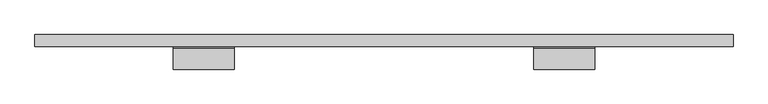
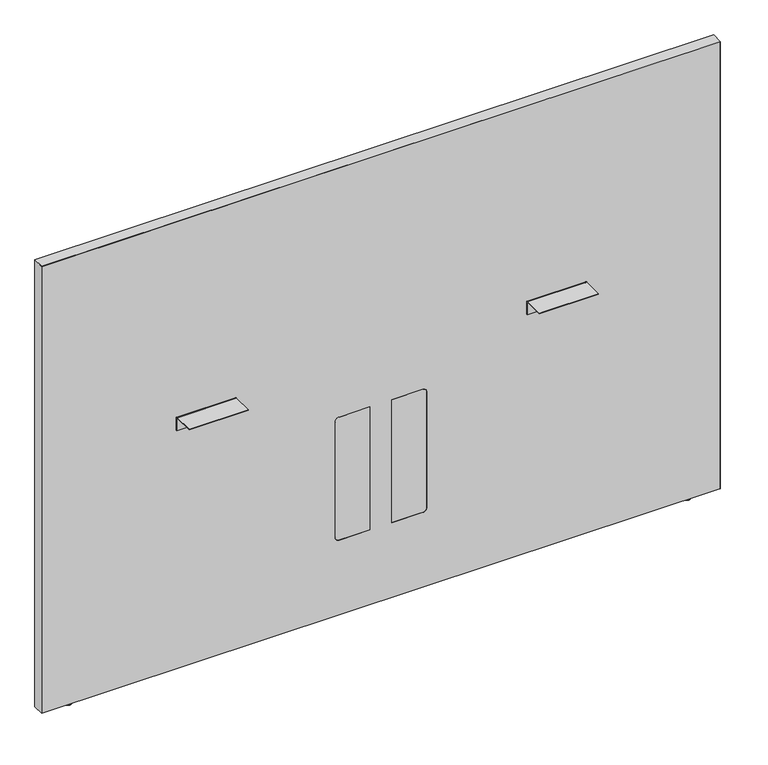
"""IFC4 building model written with IfcOpenShell, lengths in millimetres: furniture geometry, Steelcase - Answer Solution - Boundary Screen - Straight - Spanning : 48H x 69W."""

from ifc_helpers import new_model, si_unit, point, frame, frame_2d, origin, place, context, project, spatial, polyline, circle_curve, ellipse_curve, trimmed, segment, composite_curve, outline, extrude, source, transform, mapped, element, save
from ifc_brep_helpers import plane_surface, cylinder_surface, revolved_surface, advanced_brep


def furniture_8225a1f2(model_context):
    return source(origin(), model_context, "Body", "SolidModel", [
        advanced_brep(
        [(-569.2902705, -14.8449166, 9.9059849), (-569.2902705, -5.9309607, 9.9059849), (-569.2902705, -23.7588726, 9.9059849), (-569.2902705, -5.9309607, 2.9673238), (-569.2902705, -23.7588726, 2.9673238), (-569.2902705, -6.8982978, 2.9673238), (-569.2902705, -22.7915354, 2.9673238), (-569.2902705, -6.8982978, 1.6569081), (-569.2902705, -22.7915354, 1.6569081), (-569.2902705, -8.5552059, 0.0), (-569.2902705, -21.1346274, 0.0), (-569.2902705, -14.8449166, 0.0)],
        [
            (0, 1),
            (1, 2, circle_curve(frame((-569.2902705, -14.8449166, 9.9059849), z_axis=(0.0, 0.0, 1.0), x_axis=(0.0, 1.0, 0.0)), 8.913956)),
            (2, 0),
            (2, 1, circle_curve(frame((-569.2902705, -14.8449166, 9.9059849), z_axis=(0.0, 0.0, 1.0), x_axis=(0.0, 1.0, 0.0)), 8.913956)),
            (1, 3),
            (3, 4, circle_curve(frame((-569.2902705, -14.8449166, 2.9673238), z_axis=(0.0, 0.0, 1.0), x_axis=(0.0, 1.0, 0.0)), 8.913956)),
            (4, 2),
            (4, 3, circle_curve(frame((-569.2902705, -14.8449166, 2.9673238), z_axis=(0.0, 0.0, 1.0), x_axis=(0.0, 1.0, 0.0)), 8.913956)),
            (3, 5),
            (5, 6, circle_curve(frame((-569.2902705, -14.8449166, 2.9673238), z_axis=(0.0, 0.0, 1.0), x_axis=(0.0, 1.0, 0.0)), 7.9466188)),
            (6, 4),
            (6, 5, circle_curve(frame((-569.2902705, -14.8449166, 2.9673238), z_axis=(0.0, 0.0, 1.0), x_axis=(0.0, 1.0, 0.0)), 7.9466188)),
            (5, 7),
            (7, 8, circle_curve(frame((-569.2902705, -14.8449166, 1.6569081), z_axis=(0.0, 0.0, 1.0), x_axis=(0.0, 1.0, 0.0)), 7.9466188)),
            (8, 6),
            (8, 7, circle_curve(frame((-569.2902705, -14.8449166, 1.6569081), z_axis=(0.0, 0.0, 1.0), x_axis=(0.0, 1.0, 0.0)), 7.9466188)),
            (7, 9, circle_curve(frame((-569.2902705, -8.5552059, 1.6569081), z_axis=(-1.0, 0.0, 0.0), x_axis=(0.0, 1.0, 0.0)), 1.6569081)),
            (9, 10, circle_curve(frame((-569.2902705, -14.8449166, 0.0), z_axis=(0.0, 0.0, 1.0), x_axis=(0.0, 1.0, 0.0)), 6.2897107)),
            (10, 8, circle_curve(frame((-569.2902705, -21.1346274, 1.6569081), z_axis=(-1.0, 0.0, 0.0), x_axis=(0.0, -1.0, 0.0)), 1.6569081)),
            (10, 9, circle_curve(frame((-569.2902705, -14.8449166, 0.0), z_axis=(0.0, 0.0, 1.0), x_axis=(0.0, 1.0, 0.0)), 6.2897107)),
            (9, 11),
            (11, 10),
        ],
        [
            plane_surface(frame((-569.2902705, -14.8449166, 9.9059849), z_axis=(0.0, 0.0, 1.0), x_axis=(0.0, 1.0, 0.0))),
            cylinder_surface(frame((-569.2902705, -14.8449166, 9.9059849), z_axis=(0.0, 0.0, 1.0), x_axis=(0.0, 1.0, 0.0)), 8.913956),
            plane_surface(frame((-569.2902705, -14.8449166, 2.9673238), z_axis=(0.0, 0.0, -1.0), x_axis=(0.0, 1.0, 0.0))),
            cylinder_surface(frame((-569.2902705, -14.8449166, 9.9059849), z_axis=(0.0, 0.0, 1.0), x_axis=(0.0, 1.0, 0.0)), 7.9466188),
            revolved_surface(trimmed(ellipse_curve(frame((-569.2902705, -8.5552059, 1.6569081), z_axis=(1.0, 0.0, 0.0), x_axis=(0.0, 1.0, 0.0)), 1.6569081, 1.6569081), [point((-569.2902705, -8.5552059, 0.0))], [point((-569.2902705, -6.8982978, 1.6569081))], True, "CARTESIAN"), (-569.2902705, -14.8449166, 9.9059849), (0.0, 0.0, 1.0)),
            plane_surface(frame((-569.2902705, -14.8449166, 0.0), z_axis=(0.0, 0.0, -1.0), x_axis=(0.0, 1.0, 0.0))),
        ],
        [
            (0, [[1, 2, 3]]),
            (0, [[-3, 4, -1]]),
            (1, [[-2, 5, 6, 7]]),
            (1, [[-4, -7, 8, -5]]),
            (2, [[-6, 9, 10, 11]]),
            (2, [[-8, -11, 12, -9]]),
            (3, [[-10, 13, 14, 15]]),
            (3, [[-12, -15, 16, -13]]),
            (4, [[-14, 17, 18, 19]]),
            (4, [[-16, -19, 20, -17]]),
            (5, [[-18, 21, 22]]),
            (5, [[-20, -22, -21]]),
        ],
    ),
        extrude(outline(composite_curve([segment(polyline([(-86.8398151, 696.4680019), (-86.8398151, 698.5), (-34.9450855, 698.5)]), True, "CONTINUOUS"), segment(trimmed(circle_curve(frame_2d((-34.9450855, 693.2447477)), 5.2552523), [point((-34.9450855, 698.5))], [point((-29.6898332, 693.2447477))], False, "CARTESIAN"), True, "CONTINUOUS"), segment(polyline([(-29.6898332, 693.2447477), (-29.6898332, 660.4), (-31.7218162, 660.4), (-31.7218162, 693.0058743)]), True, "CONTINUOUS"), segment(trimmed(circle_curve(frame_2d((-35.1839438, 693.0058743)), 3.4621276), [point((-31.7218162, 693.0058743))], [point((-35.1839438, 696.4680019))], True, "CARTESIAN"), True, "CONTINUOUS"), segment(polyline([(-35.1839438, 696.4680019), (-86.8398151, 696.4680019)]), True, "CONTINUOUS")], self_intersect=False)), frame((605.9282189, 0.0, 0.0), z_axis=(1.0, 0.0, 0.0), x_axis=(0.0, 1.0, 0.0)), (0.0, 0.0, 1.0), 152.4000969),
        extrude(outline(composite_curve([segment(polyline([(-86.8398151, 696.4680019), (-86.8398151, 698.5), (-34.9450855, 698.5)]), True, "CONTINUOUS"), segment(trimmed(circle_curve(frame_2d((-34.9450855, 693.2447477)), 5.2552523), [point((-34.9450855, 698.5))], [point((-29.6898332, 693.2447477))], False, "CARTESIAN"), True, "CONTINUOUS"), segment(polyline([(-29.6898332, 693.2447477), (-29.6898332, 660.4), (-31.7218162, 660.4), (-31.7218162, 693.0058743)]), True, "CONTINUOUS"), segment(trimmed(circle_curve(frame_2d((-35.1839438, 693.0058743)), 3.4621276), [point((-31.7218162, 693.0058743))], [point((-35.1839438, 696.4680019))], True, "CARTESIAN"), True, "CONTINUOUS"), segment(polyline([(-35.1839438, 696.4680019), (-86.8398151, 696.4680019)]), True, "CONTINUOUS")], self_intersect=False)), frame((-298.6884581, 0.0, 0.0), z_axis=(1.0, 0.0, 0.0), x_axis=(0.0, 1.0, 0.0)), (0.0, 0.0, 1.0), 152.4000969),
        advanced_brep(
        [(1028.9286488, -23.7588726, 9.9059849), (1028.9286488, -5.9309607, 9.9059849), (1028.9286488, -14.8449166, 9.9059849), (1028.9286488, -23.7588726, 2.9673238), (1028.9286488, -5.9309607, 2.9673238), (1028.9286488, -22.7915354, 2.9673238), (1028.9286488, -6.8982978, 2.9673238), (1028.9286488, -22.7915354, 1.6569081), (1028.9286488, -6.8982978, 1.6569081), (1028.9286488, -21.1346274, 0.0), (1028.9286488, -8.5552059, 0.0), (1028.9286488, -14.8449166, 0.0)],
        [
            (0, 1, circle_curve(frame((1028.9286488, -14.8449166, 9.9059849), z_axis=(0.0, 0.0, 1.0), x_axis=(0.0, 1.0, 0.0)), 8.913956)),
            (1, 2),
            (2, 0),
            (1, 0, circle_curve(frame((1028.9286488, -14.8449166, 9.9059849), z_axis=(0.0, 0.0, 1.0), x_axis=(0.0, 1.0, 0.0)), 8.913956)),
            (3, 4, circle_curve(frame((1028.9286488, -14.8449166, 2.9673238), z_axis=(0.0, 0.0, 1.0), x_axis=(0.0, 1.0, 0.0)), 8.913956)),
            (4, 1),
            (0, 3),
            (4, 3, circle_curve(frame((1028.9286488, -14.8449166, 2.9673238), z_axis=(0.0, 0.0, 1.0), x_axis=(0.0, 1.0, 0.0)), 8.913956)),
            (5, 6, circle_curve(frame((1028.9286488, -14.8449166, 2.9673238), z_axis=(0.0, 0.0, 1.0), x_axis=(0.0, 1.0, 0.0)), 7.9466188)),
            (6, 4),
            (3, 5),
            (6, 5, circle_curve(frame((1028.9286488, -14.8449166, 2.9673238), z_axis=(0.0, 0.0, 1.0), x_axis=(0.0, 1.0, 0.0)), 7.9466188)),
            (7, 8, circle_curve(frame((1028.9286488, -14.8449166, 1.6569081), z_axis=(0.0, 0.0, 1.0), x_axis=(0.0, 1.0, 0.0)), 7.9466188)),
            (8, 6),
            (5, 7),
            (8, 7, circle_curve(frame((1028.9286488, -14.8449166, 1.6569081), z_axis=(0.0, 0.0, 1.0), x_axis=(0.0, 1.0, 0.0)), 7.9466188)),
            (9, 10, circle_curve(frame((1028.9286488, -14.8449166, 0.0), z_axis=(0.0, 0.0, 1.0), x_axis=(0.0, 1.0, 0.0)), 6.2897107)),
            (10, 8, circle_curve(frame((1028.9286488, -8.5552059, 1.6569081), z_axis=(1.0, 0.0, 0.0), x_axis=(0.0, 1.0, 0.0)), 1.6569081)),
            (7, 9, circle_curve(frame((1028.9286488, -21.1346274, 1.6569081), z_axis=(1.0, 0.0, 0.0), x_axis=(0.0, -1.0, 0.0)), 1.6569081)),
            (10, 9, circle_curve(frame((1028.9286488, -14.8449166, 0.0), z_axis=(0.0, 0.0, 1.0), x_axis=(0.0, 1.0, 0.0)), 6.2897107)),
            (11, 10),
            (9, 11),
        ],
        [
            plane_surface(frame((1028.9286488, -14.8449166, 9.9059849), z_axis=(0.0, 0.0, 1.0), x_axis=(0.0, 1.0, 0.0))),
            cylinder_surface(frame((1028.9286488, -14.8449166, 9.9059849), z_axis=(0.0, 0.0, -1.0), x_axis=(0.0, 1.0, 0.0)), 8.913956),
            plane_surface(frame((1028.9286488, -14.8449166, 2.9673238), z_axis=(0.0, 0.0, -1.0), x_axis=(0.0, 1.0, 0.0))),
            cylinder_surface(frame((1028.9286488, -14.8449166, 9.9059849), z_axis=(0.0, 0.0, -1.0), x_axis=(0.0, 1.0, 0.0)), 7.9466188),
            revolved_surface(trimmed(ellipse_curve(frame((1028.9286488, -8.5552059, 1.6569081), z_axis=(-1.0, 0.0, 0.0), x_axis=(0.0, 1.0, 0.0)), 1.6569081, 1.6569081), [point((1028.9286488, -6.8982978, 1.6569081))], [point((1028.9286488, -8.5552059, 0.0))], True, "CARTESIAN"), (1028.9286488, -14.8449166, 9.9059849), (0.0, 0.0, -1.0)),
            plane_surface(frame((1028.9286488, -14.8449166, 0.0), z_axis=(0.0, 0.0, -1.0), x_axis=(0.0, 1.0, 0.0))),
        ],
        [
            (0, [[1, 2, 3]]),
            (0, [[4, -3, -2]]),
            (1, [[5, 6, -1, 7]]),
            (1, [[8, -7, -4, -6]]),
            (2, [[9, 10, -5, 11]]),
            (2, [[12, -11, -8, -10]]),
            (3, [[13, 14, -9, 15]]),
            (3, [[16, -15, -12, -14]]),
            (4, [[17, 18, -13, 19]]),
            (4, [[20, -19, -16, -18]]),
            (5, [[21, -17, 22]]),
            (5, [[-22, -20, -21]]),
        ],
    ),
        advanced_brep(
        [(1105.0780168, 0.0, 1229.142118), (1105.0780168, 0.0, 9.9059849), (-645.4902221, 0.0, 9.9059849), (-645.4902221, 0.0, 1229.142118), (1105.0780168, -29.6898332, 1229.142118), (-645.4902221, -29.6898332, 1229.142118), (-645.4902221, -29.6898332, 9.9059849), (1105.0780168, -29.6898332, 9.9059849), (337.7883813, -29.6898332, 549.6162029), (347.9483813, -29.6898332, 539.4562029), (347.9483813, -29.6898332, 223.9362137), (337.7883813, -29.6898332, 213.7762137), (258.1344836, -29.6898332, 213.7762137), (258.1344836, -29.6898332, 549.6162029), (121.849997, -29.6898332, 549.6162029), (201.5038947, -29.6898332, 549.6162029), (201.5038947, -29.6898332, 213.7762137), (121.849997, -29.6898332, 213.7762137), (111.689997, -29.6898332, 223.9362137), (111.689997, -29.6898332, 539.4562029), (258.1344836, -29.0550397, 549.6162029), (337.7883813, -29.0550397, 549.6162029), (258.1344836, -29.0550397, 213.7762137), (337.7883813, -29.0550397, 213.7762137), (347.9483813, -29.0550397, 223.9362137), (347.9483813, -29.0550397, 539.4562029), (121.849997, -29.0550397, 549.6162029), (111.689997, -29.0550397, 539.4562029), (111.689997, -29.0550397, 223.9362137), (121.849997, -29.0550397, 213.7762137), (201.5038947, -29.0550397, 213.7762137), (201.5038947, -29.0550397, 549.6162029)],
        [
            (0, 1),
            (1, 2),
            (2, 3),
            (3, 0),
            (4, 5),
            (5, 6),
            (6, 7),
            (7, 4),
            (8, 9, circle_curve(frame((337.7883813, -29.6898332, 539.4562029), z_axis=(0.0, 1.0, 0.0), x_axis=(0.0, 0.0, 1.0)), 10.16)),
            (9, 10),
            (10, 11, circle_curve(frame((337.7883813, -29.6898332, 223.9362137), z_axis=(0.0, 1.0, 0.0), x_axis=(0.0, 0.0, 1.0)), 10.16)),
            (11, 12),
            (12, 13),
            (13, 8),
            (14, 15),
            (15, 16),
            (16, 17),
            (17, 18, circle_curve(frame((121.849997, -29.6898332, 223.9362137), z_axis=(0.0, 1.0, 0.0), x_axis=(0.0, 0.0, 1.0)), 10.16)),
            (18, 19),
            (19, 14, circle_curve(frame((121.849997, -29.6898332, 539.4562029), z_axis=(0.0, 1.0, 0.0), x_axis=(0.0, 0.0, 1.0)), 10.16)),
            (0, 4),
            (7, 1),
            (6, 2),
            (5, 3),
            (13, 20),
            (20, 21),
            (21, 8),
            (12, 22),
            (22, 20),
            (11, 23),
            (23, 22),
            (10, 24),
            (24, 23, circle_curve(frame((337.7883813, -29.0550397, 223.9362137), z_axis=(0.0, 1.0, 0.0), x_axis=(0.0, 0.0, 1.0)), 10.16)),
            (9, 25),
            (25, 24),
            (21, 25, circle_curve(frame((337.7883813, -29.0550397, 539.4562029), z_axis=(0.0, 1.0, 0.0), x_axis=(0.0, 0.0, 1.0)), 10.16)),
            (26, 27, circle_curve(frame((121.849997, -29.0550397, 539.4562029), z_axis=(0.0, -1.0, 0.0), x_axis=(0.0, 0.0, 1.0)), 10.16)),
            (27, 28),
            (28, 29, circle_curve(frame((121.849997, -29.0550397, 223.9362137), z_axis=(0.0, -1.0, 0.0), x_axis=(0.0, 0.0, 1.0)), 10.16)),
            (29, 30),
            (30, 31),
            (31, 26),
            (19, 27),
            (26, 14),
            (18, 28),
            (17, 29),
            (16, 30),
            (15, 31),
        ],
        [
            plane_surface(frame((1105.0780168, 0.0, 1229.142118), z_axis=(0.0, 1.0, 0.0), x_axis=(0.0, 0.0, -1.0))),
            plane_surface(frame((1105.0780168, -29.6898332, 1229.142118), z_axis=(0.0, -1.0, 0.0), x_axis=(0.0, 0.0, 1.0))),
            plane_surface(frame((1105.0780168, 0.0, 1229.142118), z_axis=(1.0, 0.0, 0.0), x_axis=(0.0, -1.0, 0.0))),
            plane_surface(frame((1105.0780168, 0.0, 9.9059849), z_axis=(0.0, 0.0, -1.0), x_axis=(0.0, -1.0, 0.0))),
            plane_surface(frame((-645.4902221, 0.0, 9.9059849), z_axis=(-1.0, 0.0, 0.0), x_axis=(0.0, -1.0, 0.0))),
            plane_surface(frame((-645.4902221, 0.0, 1229.142118), z_axis=(0.0, 0.0, 1.0), x_axis=(0.0, -1.0, 0.0))),
            plane_surface(frame((337.7883813, 0.0, 549.6162029), z_axis=(0.0, 0.0, -1.0), x_axis=(0.0, -1.0, 0.0))),
            plane_surface(frame((258.1344836, 0.0, 549.6162029), z_axis=(1.0, 0.0, 0.0), x_axis=(0.0, -1.0, 0.0))),
            plane_surface(frame((258.1344836, 0.0, 213.7762137), z_axis=(0.0, 0.0, 1.0), x_axis=(0.0, -1.0, 0.0))),
            revolved_surface(polyline([(337.7883813, -29.6898332, 234.0962137), (337.7883813, -29.0550397, 234.0962137)]), (337.7883813, -29.6898332, 223.9362137), (0.0, -1.0, 0.0)),
            plane_surface(frame((347.9483813, 0.0, 223.9362137), z_axis=(-1.0, 0.0, 0.0), x_axis=(0.0, -1.0, 0.0))),
            revolved_surface(polyline([(337.7883813, -29.6898332, 549.6162029), (337.7883813, -29.0550397, 549.6162029)]), (337.7883813, -29.6898332, 539.4562029), (0.0, -1.0, 0.0)),
            plane_surface(frame((347.9483813, -29.0550397, 549.6162029), z_axis=(0.0, -1.0, 0.0), x_axis=(0.0, 0.0, 1.0))),
            revolved_surface(polyline([(121.849997, -29.6898332, 549.6162029), (121.849997, -29.0550397, 549.6162029)]), (121.849997, -29.6898332, 539.4562029), (0.0, -1.0, 0.0)),
            plane_surface(frame((111.689997, 0.0, 539.4562029), z_axis=(1.0, 0.0, 0.0), x_axis=(0.0, -1.0, 0.0))),
            revolved_surface(polyline([(121.849997, -29.6898332, 234.0962137), (121.849997, -29.0550397, 234.0962137)]), (121.849997, -29.6898332, 223.9362137), (0.0, -1.0, 0.0)),
            plane_surface(frame((121.849997, 0.0, 213.7762137), z_axis=(0.0, 0.0, 1.0), x_axis=(0.0, -1.0, 0.0))),
            plane_surface(frame((201.5038947, 0.0, 213.7762137), z_axis=(-1.0, 0.0, 0.0), x_axis=(0.0, -1.0, 0.0))),
            plane_surface(frame((201.5038947, 0.0, 549.6162029), z_axis=(0.0, 0.0, -1.0), x_axis=(0.0, -1.0, 0.0))),
        ],
        [
            (0, [[1, 2, 3, 4]]),
            (1, [[5, 6, 7, 8], [9, 10, 11, 12, 13, 14], [15, 16, 17, 18, 19, 20]]),
            (2, [[-1, 21, -8, 22]]),
            (3, [[-2, -22, -7, 23]]),
            (4, [[-3, -23, -6, 24]]),
            (5, [[-4, -24, -5, -21]]),
            (6, [[-14, 25, 26, 27]]),
            (7, [[-13, 28, 29, -25]]),
            (8, [[-12, 30, 31, -28]]),
            (9, [[-11, 32, 33, -30]]),
            (10, [[-10, 34, 35, -32]]),
            (11, [[-9, -27, 36, -34]]),
            (12, [[-26, -29, -31, -33, -35, -36]]),
            (12, [[37, 38, 39, 40, 41, 42]]),
            (13, [[-20, 43, -37, 44]]),
            (14, [[-19, 45, -38, -43]]),
            (15, [[-18, 46, -39, -45]]),
            (16, [[-17, 47, -40, -46]]),
            (17, [[-16, 48, -41, -47]]),
            (18, [[-15, -44, -42, -48]]),
        ],
    ),
        extrude(outline(composite_curve([segment(polyline([(549.6162029, 337.7883813), (549.6162029, 258.1344836), (213.7762137, 258.1344836), (213.7762137, 337.7883813)]), True, "CONTINUOUS"), segment(trimmed(circle_curve(frame_2d((223.9362137, 337.7883813)), 10.16), [point((213.7762137, 337.7883813))], [point((223.9362137, 347.9483813))], False, "CARTESIAN"), True, "CONTINUOUS"), segment(polyline([(223.9362137, 347.9483813), (539.4562029, 347.9483813)]), True, "CONTINUOUS"), segment(trimmed(circle_curve(frame_2d((539.4562029, 337.7883813)), 10.16), [point((539.4562029, 347.9483813))], [point((549.6162029, 337.7883813))], False, "CARTESIAN"), True, "CONTINUOUS")], self_intersect=False)), frame((0.0, -29.6898332, 0.0), z_axis=(0.0, 1.0, 0.0), x_axis=(0.0, 0.0, 1.0)), (0.0, 0.0, 1.0), 0.6347935),
        extrude(outline(composite_curve([segment(trimmed(circle_curve(frame_2d((539.4562029, 121.849997)), 10.16), [point((549.6162029, 121.849997))], [point((539.4562029, 111.689997))], False, "CARTESIAN"), True, "CONTINUOUS"), segment(polyline([(539.4562029, 111.689997), (223.9362137, 111.689997)]), True, "CONTINUOUS"), segment(trimmed(circle_curve(frame_2d((223.9362137, 121.849997)), 10.16), [point((223.9362137, 111.689997))], [point((213.7762137, 121.849997))], False, "CARTESIAN"), True, "CONTINUOUS"), segment(polyline([(213.7762137, 121.849997), (213.7762137, 201.5038947), (549.6162029, 201.5038947), (549.6162029, 121.849997)]), True, "CONTINUOUS")], self_intersect=False)), frame((0.0, -29.6898332, 0.0), z_axis=(0.0, 1.0, 0.0), x_axis=(0.0, 0.0, 1.0)), (0.0, 0.0, 1.0), 0.6347935),
        extrude(outline(polyline([(1230.122, 1106.1191891), (1230.122, -646.4808109), (9.9059849, -646.4808109), (9.9059849, -645.4902221), (1229.142118, -645.4902221), (1229.142118, 1105.0780168), (9.9059849, 1105.0780168), (9.9059849, 1106.1191891), (1230.122, 1106.1191891)])), frame((0.0, -29.6898332, 0.0), z_axis=(0.0, 1.0, 0.0), x_axis=(0.0, 0.0, 1.0)), (0.0, 0.0, 1.0), 29.6898332),
    ])


if __name__ == "__main__":
    model = new_model("IFC4")
    model_context = context("Model", 3, world=origin())
    ifc_project = project(units=[si_unit("LENGTHUNIT", "METRE", prefix="MILLI")], contexts=[model_context])
    site = spatial("IfcSite", under=ifc_project)
    building = spatial("IfcBuilding", under=site)
    placement = place(None, origin())
    furniture_shape = furniture_8225a1f2(model_context)
    element("IfcFurniture", 1, ObjectType="Steelcase - Answer Solution - Boundary Screen - Straight - Spanning : 48H x 69W", at=placement, inside=building, context=model_context, shape_type="MappedRepresentation", body=[
        mapped(furniture_shape, transform((0.0, 0.0, 0.0), x_axis=(1.0, 0.0, 0.0), y_axis=(0.0, 1.0, 0.0), z_axis=(0.0, 0.0, 1.0))),
    ])
    save(model, "model.ifc")
